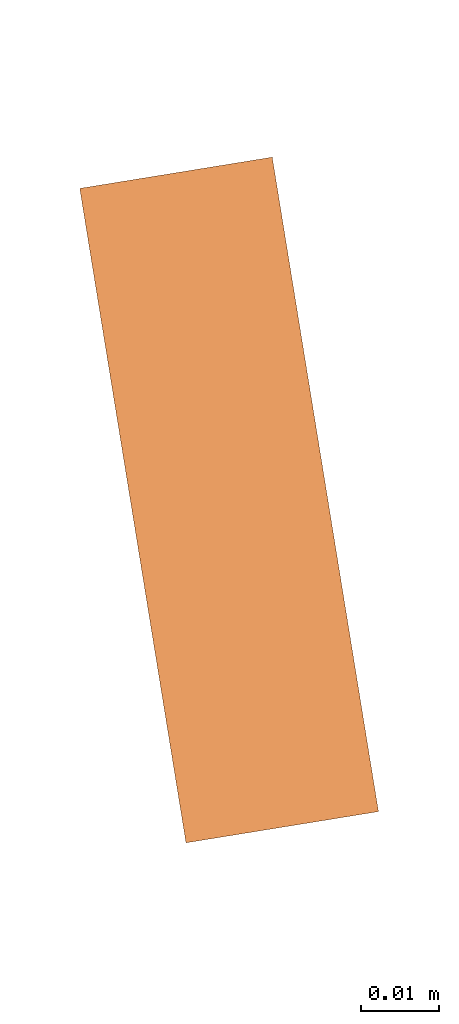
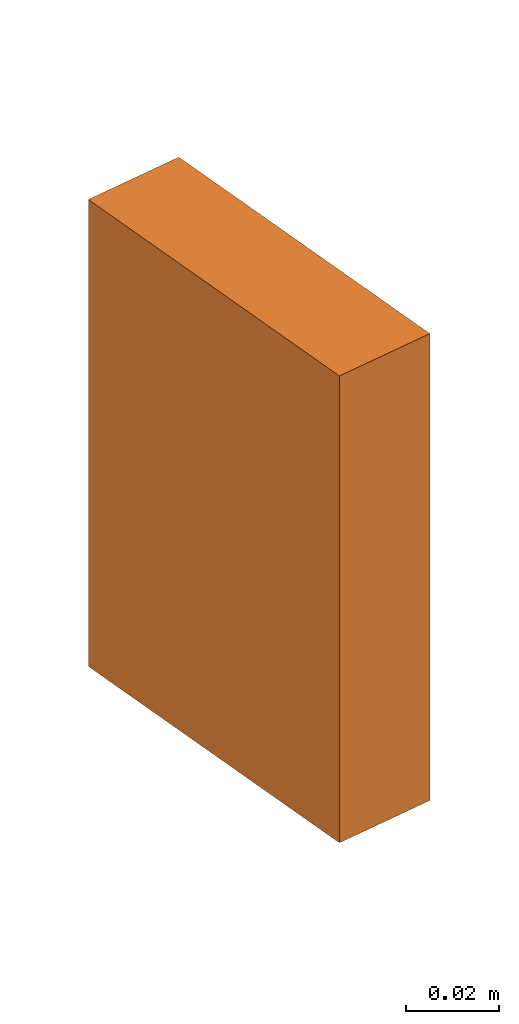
# One storey, part 3 of 4: 1 proxy.
"""IFC2X3 building model written with IfcOpenShell, lengths in millimetres."""

from ifc_helpers import new_model, entity, si_unit, converted_unit, derived_unit, direction, frame, origin, origin_with_axes, origin_2d_with_axis, place, context, subcontext, project, spatial, rectangle, extrude, source, transform, mapped, material, type_object, element, save


model = new_model("IFC2X3")

# Units and contexts
model_context = context("Model", 3, precision=0.01, world=origin(), true_north=direction((6.12323399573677e-17, 1.0)))
plan_context = context("Plan", 3, precision=1e-05, world=origin_with_axes())
body_context = subcontext(model_context, "Body", "Model", "MODEL_VIEW")
ifc_project = project(units=[converted_unit("PLANEANGLEUNIT", "DEGREE", entity("IfcPositiveLengthMeasure", 0.0174532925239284), si_unit("PLANEANGLEUNIT", "RADIAN"), dimensions=[0, 0, 0, 0, 0, 0, 0]), si_unit("AREAUNIT", "SQUARE_METRE"), si_unit("LENGTHUNIT", "METRE", prefix="MILLI"), si_unit("MASSUNIT", "GRAM", prefix="KILO"), si_unit("POWERUNIT", "WATT"), si_unit("PRESSUREUNIT", "PASCAL", prefix="KILO"), si_unit("FORCEUNIT", "NEWTON", prefix="KILO"), si_unit("ELECTRICVOLTAGEUNIT", "VOLT"), si_unit("ELECTRICCURRENTUNIT", "AMPERE"), si_unit("THERMODYNAMICTEMPERATUREUNIT", "DEGREE_CELSIUS"), si_unit("TIMEUNIT", "SECOND"), si_unit("VOLUMEUNIT", "CUBIC_METRE"), derived_unit("LINEARVELOCITYUNIT", [(si_unit("LENGTHUNIT", "METRE"), 1), (si_unit("TIMEUNIT", "SECOND"), -1)]), derived_unit("VOLUMETRICFLOWRATEUNIT", [(si_unit("VOLUMEUNIT", "CUBIC_METRE"), 1), (si_unit("TIMEUNIT", "SECOND"), -1)]), derived_unit("THERMALTRANSMITTANCEUNIT", [(si_unit("POWERUNIT", "WATT"), 1), (si_unit("THERMODYNAMICTEMPERATUREUNIT", "KELVIN"), -1), (si_unit("AREAUNIT", "SQUARE_METRE"), -1)]), derived_unit("SOUNDPRESSUREUNIT", [(si_unit("PRESSUREUNIT", "PASCAL"), 1)])], contexts=[model_context, plan_context])

# Site, building, storey
site_placement = place(None, frame((-743.430438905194, 3176.84670324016, 0.0), z_axis=(0.0, 0.0, 1.0), x_axis=(-0.160236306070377, 0.987078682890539, 0.0)))
site = spatial("IfcSite", under=ifc_project, at=site_placement, Name="Default", CompositionType="ELEMENT")
building_placement = place(site_placement, origin_with_axes())
building = spatial("IfcBuilding", under=site, at=building_placement, CompositionType="ELEMENT")
storey_placement = place(building_placement, frame((0.0, 0.0, 50999.9999999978), z_axis=(0.0, 0.0, 1.0), x_axis=(1.0, 0.0, 0.0)))
storey = spatial("IfcBuildingStorey", under=building, at=storey_placement, Name="Nivå D", CompositionType="ELEMENT", Elevation=50999.9999999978)

# Proxy
ifc_material = material(Name="Material1")
building_element_proxy_type = type_object("IfcBuildingElementProxyType", Name="Kortleser med tastatur1:SECURITY ALARM 3", PredefinedType="NOTDEFINED", material=ifc_material)
shared_shape = source(origin(), body_context, "Body", "SweptSolid", [
    extrude(rectangle(XDim=25.0, YDim=85.0, at=origin_2d_with_axis()), frame((0.0, 12.5000000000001, -61.0), z_axis=(0.0, 0.0, 1.0), x_axis=(0.0, 1.0, 0.0)), (0.0, 0.0, 1.0), 122.0),
])
proxy_placement = place(storey_placement, frame((771412.087493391, -589237.48173883, 1000.0), z_axis=(0.0, 0.0, 1.0), x_axis=(-1.0, 0.0, 0.0)))
element("IfcBuildingElementProxy", 1, at=proxy_placement, inside=storey, type_object=building_element_proxy_type, material=ifc_material, Name="Kortleser med tastatur1:SECURITY ALARM 3", ObjectType="Kortleser med tastatur1:SECURITY ALARM 3", context=body_context, shape_type="MappedRepresentation", body=[
    mapped(shared_shape, transform((0.0, 0.0, 0.0), scale=1.0)),
])

save(model, "model.ifc")
